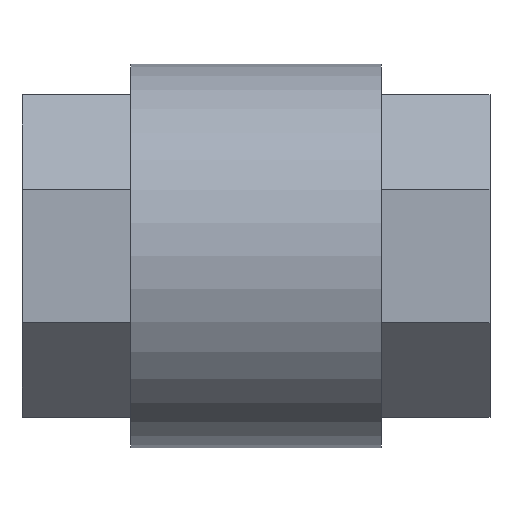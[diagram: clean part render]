
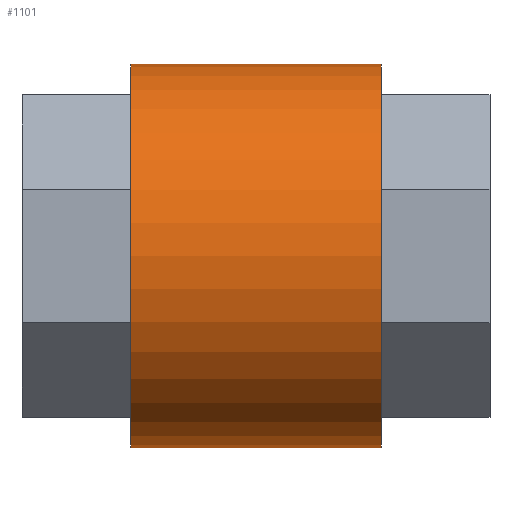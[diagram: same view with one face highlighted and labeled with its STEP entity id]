
A CAD part, front view. The second image highlights one B-rep face of the part: STEP entity #1101.
In plain terms, the highlighted cylindrical face has radius 1.093 mm (diameter 2.185 mm), a full revolution.
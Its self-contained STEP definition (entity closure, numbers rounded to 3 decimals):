
#238 = PLANE('',#239);
#239 = AXIS2_PLACEMENT_3D('',#240,#241,#242);
#240 = CARTESIAN_POINT('',(2.045,-0.38,0.918));
#241 = DIRECTION('',(1.,0.,0.));
#242 = DIRECTION('',(0.,0.,-1.));
#842 = EDGE_CURVE('',#843,#843,#845,.T.);
#843 = VERTEX_POINT('',#844);
#844 = CARTESIAN_POINT('',(0.62,0.712,0.918));
#845 = SURFACE_CURVE('',#846,(#851,#863),.PCURVE_S1.);
#846 = CIRCLE('',#847,1.093);
#847 = AXIS2_PLACEMENT_3D('',#848,#849,#850);
#848 = CARTESIAN_POINT('',(0.62,-0.38,0.918));
#849 = DIRECTION('',(1.,0.,0.));
#850 = DIRECTION('',(0.,1.,0.));
#851 = PCURVE('',#852,#857);
#852 = PLANE('',#853);
#853 = AXIS2_PLACEMENT_3D('',#854,#855,#856);
#854 = CARTESIAN_POINT('',(0.62,-0.38,0.918));
#855 = DIRECTION('',(1.,0.,0.));
#856 = DIRECTION('',(0.,0.,-1.));
#857 = DEFINITIONAL_REPRESENTATION('',(#858),#862);
#858 = CIRCLE('',#859,1.093);
#859 = AXIS2_PLACEMENT_2D('',#860,#861);
#860 = CARTESIAN_POINT('',(0.,0.));
#861 = DIRECTION('',(0.,1.));
#862 = ( GEOMETRIC_REPRESENTATION_CONTEXT(2) 
PARAMETRIC_REPRESENTATION_CONTEXT() REPRESENTATION_CONTEXT('2D SPACE',''
  ) );
#863 = PCURVE('',#864,#869);
#864 = CYLINDRICAL_SURFACE('',#865,1.093);
#865 = AXIS2_PLACEMENT_3D('',#866,#867,#868);
#866 = CARTESIAN_POINT('',(0.62,-0.38,0.918));
#867 = DIRECTION('',(1.,0.,0.));
#868 = DIRECTION('',(0.,1.,0.));
#869 = DEFINITIONAL_REPRESENTATION('',(#870),#874);
#870 = LINE('',#871,#872);
#871 = CARTESIAN_POINT('',(0.,0.));
#872 = VECTOR('',#873,1.);
#873 = DIRECTION('',(1.,0.));
#874 = ( GEOMETRIC_REPRESENTATION_CONTEXT(2) 
PARAMETRIC_REPRESENTATION_CONTEXT() REPRESENTATION_CONTEXT('2D SPACE',''
  ) );
#1101 = ADVANCED_FACE('',(#1102),#864,.T.);
#1102 = FACE_BOUND('',#1103,.T.);
#1103 = EDGE_LOOP('',(#1104,#1132,#1152,#1153));
#1104 = ORIENTED_EDGE('',*,*,#1105,.T.);
#1105 = EDGE_CURVE('',#1106,#1106,#1108,.T.);
#1106 = VERTEX_POINT('',#1107);
#1107 = CARTESIAN_POINT('',(2.045,0.712,0.918));
#1108 = SURFACE_CURVE('',#1109,(#1114,#1121),.PCURVE_S1.);
#1109 = CIRCLE('',#1110,1.093);
#1110 = AXIS2_PLACEMENT_3D('',#1111,#1112,#1113);
#1111 = CARTESIAN_POINT('',(2.045,-0.38,0.918));
#1112 = DIRECTION('',(-1.,0.,0.));
#1113 = DIRECTION('',(0.,1.,0.));
#1114 = PCURVE('',#864,#1115);
#1115 = DEFINITIONAL_REPRESENTATION('',(#1116),#1120);
#1116 = LINE('',#1117,#1118);
#1117 = CARTESIAN_POINT('',(6.283,1.425));
#1118 = VECTOR('',#1119,1.);
#1119 = DIRECTION('',(-1.,0.));
#1120 = ( GEOMETRIC_REPRESENTATION_CONTEXT(2) 
PARAMETRIC_REPRESENTATION_CONTEXT() REPRESENTATION_CONTEXT('2D SPACE',''
  ) );
#1121 = PCURVE('',#238,#1122);
#1122 = DEFINITIONAL_REPRESENTATION('',(#1123),#1131);
#1123 = ( BOUNDED_CURVE() B_SPLINE_CURVE(2,(#1124,#1125,#1126,#1127,
#1128,#1129,#1130),.UNSPECIFIED.,.T.,.F.) B_SPLINE_CURVE_WITH_KNOTS((1,2
    ,2,2,2,1),(-2.094,0.,2.094,4.189,
6.283,8.378),.UNSPECIFIED.) CURVE() 
GEOMETRIC_REPRESENTATION_ITEM() RATIONAL_B_SPLINE_CURVE((1.,0.5,1.,0.5,
1.,0.5,1.)) REPRESENTATION_ITEM('') );
#1124 = CARTESIAN_POINT('',(0.,1.093));
#1125 = CARTESIAN_POINT('',(1.892,1.093));
#1126 = CARTESIAN_POINT('',(0.946,-0.546));
#1127 = CARTESIAN_POINT('',(0.,-2.185));
#1128 = CARTESIAN_POINT('',(-0.946,-0.546));
#1129 = CARTESIAN_POINT('',(-1.892,1.093));
#1130 = CARTESIAN_POINT('',(0.,1.093));
#1131 = ( GEOMETRIC_REPRESENTATION_CONTEXT(2) 
PARAMETRIC_REPRESENTATION_CONTEXT() REPRESENTATION_CONTEXT('2D SPACE',''
  ) );
#1132 = ORIENTED_EDGE('',*,*,#1133,.F.);
#1133 = EDGE_CURVE('',#843,#1106,#1134,.T.);
#1134 = SEAM_CURVE('',#1135,(#1138,#1145),.PCURVE_S1.);
#1135 = B_SPLINE_CURVE_WITH_KNOTS('',1,(#1136,#1137),.UNSPECIFIED.,.F.,
  .F.,(2,2),(0.,1.425),.PIECEWISE_BEZIER_KNOTS.);
#1136 = CARTESIAN_POINT('',(0.62,0.712,0.918));
#1137 = CARTESIAN_POINT('',(2.045,0.712,0.918));
#1138 = PCURVE('',#864,#1139);
#1139 = DEFINITIONAL_REPRESENTATION('',(#1140),#1144);
#1140 = LINE('',#1141,#1142);
#1141 = CARTESIAN_POINT('',(0.,0.));
#1142 = VECTOR('',#1143,1.);
#1143 = DIRECTION('',(0.,1.));
#1144 = ( GEOMETRIC_REPRESENTATION_CONTEXT(2) 
PARAMETRIC_REPRESENTATION_CONTEXT() REPRESENTATION_CONTEXT('2D SPACE',''
  ) );
#1145 = PCURVE('',#864,#1146);
#1146 = DEFINITIONAL_REPRESENTATION('',(#1147),#1151);
#1147 = LINE('',#1148,#1149);
#1148 = CARTESIAN_POINT('',(6.283,0.));
#1149 = VECTOR('',#1150,1.);
#1150 = DIRECTION('',(0.,1.));
#1151 = ( GEOMETRIC_REPRESENTATION_CONTEXT(2) 
PARAMETRIC_REPRESENTATION_CONTEXT() REPRESENTATION_CONTEXT('2D SPACE',''
  ) );
#1152 = ORIENTED_EDGE('',*,*,#842,.T.);
#1153 = ORIENTED_EDGE('',*,*,#1133,.T.);
